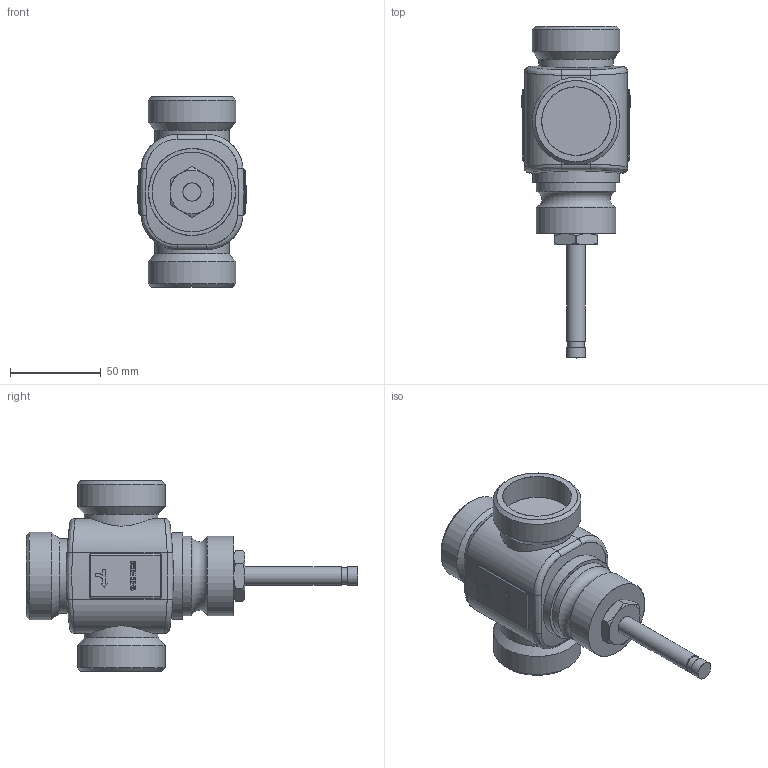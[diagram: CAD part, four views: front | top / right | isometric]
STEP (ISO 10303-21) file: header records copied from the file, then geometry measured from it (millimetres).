
FILE_DESCRIPTION(/* description */ (''),/* implementation_level */ '2;1');
FILE_NAME(/* name */ 'VXG41 DN25.stp',/* time_stamp */ '2013-10-01T14:20:42+02:00',/* author */ (''),/* organization */ (''),/* preprocessor_version */ 'ST-DEVELOPER v11',/* originating_system */ 'SIEMENS UGS NX 6.0',/* authorisation */ '');
FILE_SCHEMA (('AUTOMOTIVE_DESIGN { 1 0 10303 214 1 1 1 1 }'));
Length unit declared in the file: millimetre
Products named in the file (1): model1
Bounding box: 59.91 x 183 x 105 mm (x, y, z)
Surface area: 49856.3 mm2 (no closed solid volume)
Topology: 0 solids, 384 shells, 384 faces, 2102 edges, 2070 vertices
Faces by surface type: plane 223, cylinder 132, bspline 12, cone 8, sphere 8, torus 1
Full cylindrical faces by diameter (mm): 8.932 x1, 10 x3, 37.811 x3, 41.02 x3, 44 x2, 47.927 x1, 48.3 x3
Entity records: 27622 total; most frequent: CARTESIAN_POINT 9852, DIRECTION 2552, ORIENTED_EDGE 2069, VERTEX_POINT 2069, EDGE_CURVE 2069, LINE 1156, VECTOR 1156, AXIS2_PLACEMENT_3D 698
